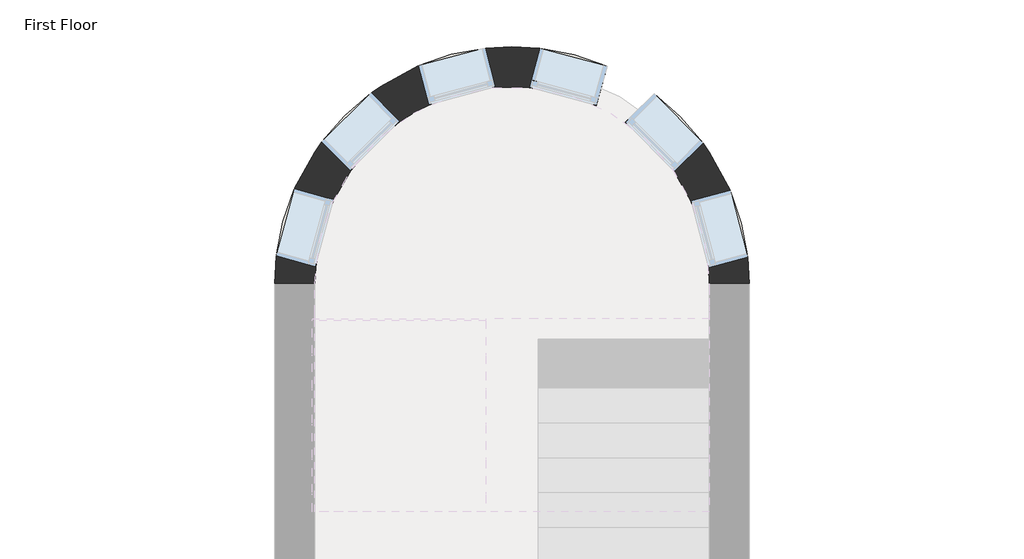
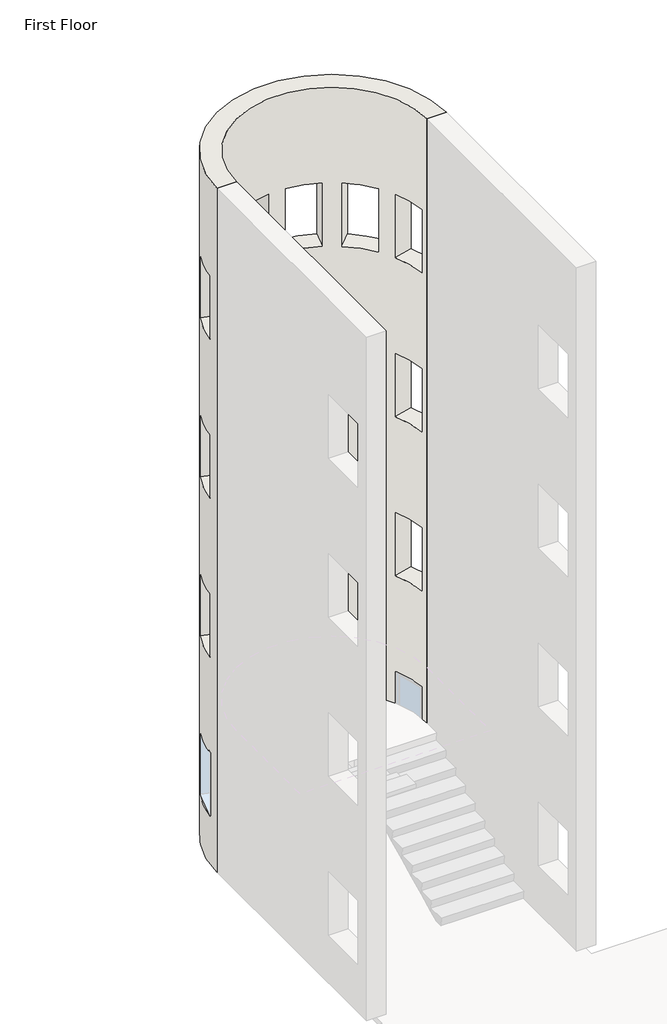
# One storey, part 2 of 3: 1 wall.
"""IFC4 building model written with IfcOpenShell, lengths in millimetres."""

from ifc_helpers import new_model, si_unit, frame, origin, place, context, project, spatial, polyline, circle_curve, element, save
from ifc_brep_helpers import plane_surface, cylinder_surface, revolved_surface, advanced_brep

model = new_model("IFC4")

# Units and contexts
model_context = context("Model", 3, world=origin())
ifc_project = project(units=[si_unit("LENGTHUNIT", "METRE", prefix="MILLI")], contexts=[model_context])

# Site, building, storey
site = spatial("IfcSite", under=ifc_project)
building = spatial("IfcBuilding", under=site)
storey = spatial("IfcBuildingStorey", under=building, Name="First Floor", Elevation=0.0)

# Wall
placement = place(None, origin())
element("IfcWall", 1, ObjectType="Exterior - Brick on Mtl. Stud", at=placement, inside=storey, context=model_context, shape_type="AdvancedBrep", body=[
    advanced_brep(
    [(-4164.4024687, 9592.7758812, 13106.4), (-8326.8274687, 9592.7758812, 13106.4), (-7974.4024687, 9592.7758812, 13106.4), (-4516.8274687, 9592.7758812, 13106.4), (-8326.8274687, 9592.7758812, 0.0), (-4164.4024687, 9592.7758812, 0.0), (-4516.8274687, 9592.7758812, 0.0), (-7974.4024687, 9592.7758812, 0.0), (-4333.3696872, 10414.2157472, 8229.6), (-4333.3696872, 10414.2157472, 7010.4), (-4177.3887825, 9824.9092757, 7010.4), (-4177.3887825, 9824.9092757, 8229.6), (-5000.2819097, 11260.2863136, 8229.6), (-5000.2819097, 11260.2863136, 7010.4), (-4570.545248, 10827.922391, 7010.4), (-4570.545248, 10827.922391, 8229.6), (-6000.8801197, 11659.5488063, 8229.6), (-6000.8801197, 11659.5488063, 7010.4), (-5412.5352924, 11499.9789965, 7010.4), (-5412.5352924, 11499.9789965, 8229.6), (-7067.0548348, 11505.0211627, 8229.6), (-7067.0548348, 11505.0211627, 7010.4), (-6477.7483633, 11661.0020674, 7010.4), (-6477.7483633, 11661.0020674, 8229.6), (-7913.1254012, 10838.1089402, 8229.6), (-7913.1254012, 10838.1089402, 7010.4), (-7480.7614786, 11267.8456019, 7010.4), (-7480.7614786, 11267.8456019, 8229.6), (-8312.3878938, 9837.5107303, 8229.6), (-8312.3878938, 9837.5107303, 7010.4), (-8152.818084, 10425.8555575, 7010.4), (-8152.818084, 10425.8555575, 8229.6), (-4333.3696872, 10414.2157472, 5181.6), (-4333.3696872, 10414.2157472, 3962.4), (-4177.3887825, 9824.9092757, 3962.4), (-4177.3887825, 9824.9092757, 5181.6), (-5000.2819097, 11260.2863136, 5181.6), (-5000.2819097, 11260.2863136, 3962.4), (-4570.545248, 10827.922391, 3962.4), (-4570.545248, 10827.922391, 5181.6), (-6000.8801197, 11659.5488063, 5181.6), (-6000.8801197, 11659.5488063, 3962.4), (-5412.5352924, 11499.9789965, 3962.4), (-5412.5352924, 11499.9789965, 5181.6), (-7067.0548348, 11505.0211627, 5181.6), (-7067.0548348, 11505.0211627, 3962.4), (-6477.7483633, 11661.0020674, 3962.4), (-6477.7483633, 11661.0020674, 5181.6), (-7913.1254012, 10838.1089402, 5181.6), (-7913.1254012, 10838.1089402, 3962.4), (-7480.7614786, 11267.8456019, 3962.4), (-7480.7614786, 11267.8456019, 5181.6), (-8312.3878938, 9837.5107303, 5181.6), (-8312.3878938, 9837.5107303, 3962.4), (-8152.818084, 10425.8555575, 3962.4), (-8152.818084, 10425.8555575, 5181.6), (-4333.3696872, 10414.2157472, 11277.6), (-4333.3696872, 10414.2157472, 10058.4), (-4177.3887825, 9824.9092757, 10058.4), (-4177.3887825, 9824.9092757, 11277.6), (-5000.2819097, 11260.2863136, 11277.6), (-5000.2819097, 11260.2863136, 10058.4), (-4570.545248, 10827.922391, 10058.4), (-4570.545248, 10827.922391, 11277.6), (-6000.8801197, 11659.5488063, 11277.6), (-6000.8801197, 11659.5488063, 10058.4), (-5412.5352924, 11499.9789965, 10058.4), (-5412.5352924, 11499.9789965, 11277.6), (-7067.0548348, 11505.0211627, 11277.6), (-7067.0548348, 11505.0211627, 10058.4), (-6477.7483633, 11661.0020674, 10058.4), (-6477.7483633, 11661.0020674, 11277.6), (-7913.1254012, 10838.1089402, 11277.6), (-7913.1254012, 10838.1089402, 10058.4), (-7480.7614786, 11267.8456019, 10058.4), (-7480.7614786, 11267.8456019, 11277.6), (-8312.3878938, 9837.5107303, 11277.6), (-8312.3878938, 9837.5107303, 10058.4), (-8152.818084, 10425.8555575, 10058.4), (-8152.818084, 10425.8555575, 11277.6), (-4333.3696872, 10414.2157472, 2133.6), (-4333.3696872, 10414.2157472, 914.4), (-4177.3887825, 9824.9092757, 914.4), (-4177.3887825, 9824.9092757, 2133.6), (-5000.2819097, 11260.2863136, 2133.6), (-5000.2819097, 11260.2863136, 914.4), (-4570.545248, 10827.922391, 914.4), (-4570.545248, 10827.922391, 2133.6), (-6000.8801197, 11659.5488063, 2133.6), (-6000.8801197, 11659.5488063, 914.4), (-5412.5352924, 11499.9789965, 914.4), (-5412.5352924, 11499.9789965, 2133.6), (-7067.0548348, 11505.0211627, 2133.6), (-7067.0548348, 11505.0211627, 914.4), (-6477.7483633, 11661.0020674, 914.4), (-6477.7483633, 11661.0020674, 2133.6), (-7913.1254012, 10838.1089402, 2133.6), (-7913.1254012, 10838.1089402, 914.4), (-7480.7614786, 11267.8456019, 914.4), (-7480.7614786, 11267.8456019, 2133.6), (-8312.3878938, 9837.5107303, 914.4), (-8152.818084, 10425.8555575, 914.4), (-8152.818084, 10425.8555575, 2133.6), (-8312.3878938, 9837.5107303, 2133.6), (-4678.5490959, 10322.8517473, 7010.4), (-4678.5490959, 10322.8517473, 8229.6), (-4522.5681912, 9733.5452757, 8229.6), (-4522.5681912, 9733.5452757, 7010.4), (-5253.5340465, 11008.5730643, 7010.4), (-5253.5340465, 11008.5730643, 8229.6), (-4823.7973847, 10576.2091417, 8229.6), (-4823.7973847, 10576.2091417, 7010.4), (-6094.346279, 11314.9326695, 7010.4), (-6094.346279, 11314.9326695, 8229.6), (-5506.0014517, 11155.3628598, 8229.6), (-5506.0014517, 11155.3628598, 7010.4), (-6975.6908348, 11159.8417541, 7010.4), (-6975.6908348, 11159.8417541, 8229.6), (-6386.3843633, 11315.8226588, 8229.6), (-6386.3843633, 11315.8226588, 7010.4), (-7661.4121519, 10584.8568034, 7010.4), (-7661.4121519, 10584.8568034, 8229.6), (-7229.0482293, 11014.5934652, 8229.6), (-7229.0482293, 11014.5934652, 7010.4), (-7967.7717571, 9744.0445709, 7010.4), (-7967.7717571, 9744.0445709, 8229.6), (-7808.2019473, 10332.3893982, 8229.6), (-7808.2019473, 10332.3893982, 7010.4), (-4678.5490959, 10322.8517473, 3962.4), (-4678.5490959, 10322.8517473, 5181.6), (-4522.5681912, 9733.5452757, 5181.6), (-4522.5681912, 9733.5452757, 3962.4), (-5253.5340465, 11008.5730643, 3962.4), (-5253.5340465, 11008.5730643, 5181.6), (-4823.7973847, 10576.2091417, 5181.6), (-4823.7973847, 10576.2091417, 3962.4), (-6094.346279, 11314.9326695, 3962.4), (-6094.346279, 11314.9326695, 5181.6), (-5506.0014517, 11155.3628598, 5181.6), (-5506.0014517, 11155.3628598, 3962.4), (-6975.6908348, 11159.8417541, 3962.4), (-6975.6908348, 11159.8417541, 5181.6), (-6386.3843633, 11315.8226588, 5181.6), (-6386.3843633, 11315.8226588, 3962.4), (-7661.4121519, 10584.8568034, 3962.4), (-7661.4121519, 10584.8568034, 5181.6), (-7229.0482293, 11014.5934652, 5181.6), (-7229.0482293, 11014.5934652, 3962.4), (-7967.7717571, 9744.0445709, 3962.4), (-7967.7717571, 9744.0445709, 5181.6), (-7808.2019473, 10332.3893982, 5181.6), (-7808.2019473, 10332.3893982, 3962.4), (-4678.5490959, 10322.8517473, 10058.4), (-4678.5490959, 10322.8517473, 11277.6), (-4522.5681912, 9733.5452757, 11277.6), (-4522.5681912, 9733.5452757, 10058.4), (-5253.5340465, 11008.5730643, 10058.4), (-5253.5340465, 11008.5730643, 11277.6), (-4823.7973847, 10576.2091417, 11277.6), (-4823.7973847, 10576.2091417, 10058.4), (-6094.346279, 11314.9326695, 10058.4), (-6094.346279, 11314.9326695, 11277.6), (-5506.0014517, 11155.3628598, 11277.6), (-5506.0014517, 11155.3628598, 10058.4), (-6975.6908348, 11159.8417541, 10058.4), (-6975.6908348, 11159.8417541, 11277.6), (-6386.3843633, 11315.8226588, 11277.6), (-6386.3843633, 11315.8226588, 10058.4), (-7661.4121519, 10584.8568034, 10058.4), (-7661.4121519, 10584.8568034, 11277.6), (-7229.0482293, 11014.5934652, 11277.6), (-7229.0482293, 11014.5934652, 10058.4), (-7967.7717571, 9744.0445709, 10058.4), (-7967.7717571, 9744.0445709, 11277.6), (-7808.2019473, 10332.3893982, 11277.6), (-7808.2019473, 10332.3893982, 10058.4), (-4678.5490959, 10322.8517473, 914.4), (-4678.5490959, 10322.8517473, 2133.6), (-4522.5681912, 9733.5452757, 2133.6), (-4522.5681912, 9733.5452757, 914.4), (-5253.5340465, 11008.5730643, 914.4), (-5253.5340465, 11008.5730643, 2133.6), (-4823.7973847, 10576.2091417, 2133.6), (-4823.7973847, 10576.2091417, 914.4), (-6094.346279, 11314.9326695, 914.4), (-6094.346279, 11314.9326695, 2133.6), (-5506.0014517, 11155.3628598, 2133.6), (-5506.0014517, 11155.3628598, 914.4), (-6975.6908348, 11159.8417541, 914.4), (-6975.6908348, 11159.8417541, 2133.6), (-6386.3843633, 11315.8226588, 2133.6), (-6386.3843633, 11315.8226588, 914.4), (-7661.4121519, 10584.8568034, 914.4), (-7661.4121519, 10584.8568034, 2133.6), (-7229.0482293, 11014.5934652, 2133.6), (-7229.0482293, 11014.5934652, 914.4), (-7808.2019473, 10332.3893982, 914.4), (-7967.7717571, 9744.0445709, 914.4), (-7967.7717571, 9744.0445709, 2133.6), (-7808.2019473, 10332.3893982, 2133.6)],
    [
        (0, 1, circle_curve(frame((-6245.6149687, 9592.7758812, 13106.4), z_axis=(0.0, 0.0, 1.0), x_axis=(1.0, 0.0, 0.0)), 2081.2125)),
        (1, 2),
        (2, 3, circle_curve(frame((-6245.6149687, 9592.7758812, 13106.4), z_axis=(0.0, 0.0, -1.0), x_axis=(1.0, 0.0, 0.0)), 1728.7875)),
        (3, 0),
        (4, 5, circle_curve(frame((-6245.6149687, 9592.7758812, 0.0), z_axis=(0.0, 0.0, -1.0), x_axis=(1.0, 0.0, 0.0)), 2081.2125)),
        (5, 6),
        (6, 7, circle_curve(frame((-6245.6149687, 9592.7758812, 0.0), z_axis=(0.0, 0.0, 1.0), x_axis=(1.0, 0.0, 0.0)), 1728.7875)),
        (7, 4),
        (0, 5),
        (4, 1),
        (8, 9),
        (9, 10, circle_curve(frame((-6245.6149687, 9592.7758812, 7010.4), z_axis=(0.0, 0.0, -1.0), x_axis=(1.0, 0.0, 0.0)), 2081.2125)),
        (10, 11),
        (11, 8, circle_curve(frame((-6245.6149687, 9592.7758812, 8229.6), z_axis=(0.0, 0.0, 1.0), x_axis=(1.0, 0.0, 0.0)), 2081.2125)),
        (12, 13),
        (13, 14, circle_curve(frame((-6245.6149687, 9592.7758812, 7010.4), z_axis=(0.0, 0.0, -1.0), x_axis=(1.0, 0.0, 0.0)), 2081.2125)),
        (14, 15),
        (15, 12, circle_curve(frame((-6245.6149687, 9592.7758812, 8229.6), z_axis=(0.0, 0.0, 1.0), x_axis=(1.0, 0.0, 0.0)), 2081.2125)),
        (16, 17),
        (17, 18, circle_curve(frame((-6245.6149687, 9592.7758812, 7010.4), z_axis=(0.0, 0.0, -1.0), x_axis=(1.0, 0.0, 0.0)), 2081.2125)),
        (18, 19),
        (19, 16, circle_curve(frame((-6245.6149687, 9592.7758812, 8229.6), z_axis=(0.0, 0.0, 1.0), x_axis=(1.0, 0.0, 0.0)), 2081.2125)),
        (20, 21),
        (21, 22, circle_curve(frame((-6245.6149687, 9592.7758812, 7010.4), z_axis=(0.0, 0.0, -1.0), x_axis=(1.0, 0.0, 0.0)), 2081.2125)),
        (22, 23),
        (23, 20, circle_curve(frame((-6245.6149687, 9592.7758812, 8229.6), z_axis=(0.0, 0.0, 1.0), x_axis=(1.0, 0.0, 0.0)), 2081.2125)),
        (24, 25),
        (25, 26, circle_curve(frame((-6245.6149687, 9592.7758812, 7010.4), z_axis=(0.0, 0.0, -1.0), x_axis=(1.0, 0.0, 0.0)), 2081.2125)),
        (26, 27),
        (27, 24, circle_curve(frame((-6245.6149687, 9592.7758812, 8229.6), z_axis=(0.0, 0.0, 1.0), x_axis=(1.0, 0.0, 0.0)), 2081.2125)),
        (28, 29),
        (29, 30, circle_curve(frame((-6245.6149687, 9592.7758812, 7010.4), z_axis=(0.0, 0.0, -1.0), x_axis=(1.0, 0.0, 0.0)), 2081.2125)),
        (30, 31),
        (31, 28, circle_curve(frame((-6245.6149687, 9592.7758812, 8229.6), z_axis=(0.0, 0.0, 1.0), x_axis=(1.0, 0.0, 0.0)), 2081.2125)),
        (32, 33),
        (33, 34, circle_curve(frame((-6245.6149687, 9592.7758812, 3962.4), z_axis=(0.0, 0.0, -1.0), x_axis=(1.0, 0.0, 0.0)), 2081.2125)),
        (34, 35),
        (35, 32, circle_curve(frame((-6245.6149687, 9592.7758812, 5181.6), z_axis=(0.0, 0.0, 1.0), x_axis=(1.0, 0.0, 0.0)), 2081.2125)),
        (36, 37),
        (37, 38, circle_curve(frame((-6245.6149687, 9592.7758812, 3962.4), z_axis=(0.0, 0.0, -1.0), x_axis=(1.0, 0.0, 0.0)), 2081.2125)),
        (38, 39),
        (39, 36, circle_curve(frame((-6245.6149687, 9592.7758812, 5181.6), z_axis=(0.0, 0.0, 1.0), x_axis=(1.0, 0.0, 0.0)), 2081.2125)),
        (40, 41),
        (41, 42, circle_curve(frame((-6245.6149687, 9592.7758812, 3962.4), z_axis=(0.0, 0.0, -1.0), x_axis=(1.0, 0.0, 0.0)), 2081.2125)),
        (42, 43),
        (43, 40, circle_curve(frame((-6245.6149687, 9592.7758812, 5181.6), z_axis=(0.0, 0.0, 1.0), x_axis=(1.0, 0.0, 0.0)), 2081.2125)),
        (44, 45),
        (45, 46, circle_curve(frame((-6245.6149687, 9592.7758812, 3962.4), z_axis=(0.0, 0.0, -1.0), x_axis=(1.0, 0.0, 0.0)), 2081.2125)),
        (46, 47),
        (47, 44, circle_curve(frame((-6245.6149687, 9592.7758812, 5181.6), z_axis=(0.0, 0.0, 1.0), x_axis=(1.0, 0.0, 0.0)), 2081.2125)),
        (48, 49),
        (49, 50, circle_curve(frame((-6245.6149687, 9592.7758812, 3962.4), z_axis=(0.0, 0.0, -1.0), x_axis=(1.0, 0.0, 0.0)), 2081.2125)),
        (50, 51),
        (51, 48, circle_curve(frame((-6245.6149687, 9592.7758812, 5181.6), z_axis=(0.0, 0.0, 1.0), x_axis=(1.0, 0.0, 0.0)), 2081.2125)),
        (52, 53),
        (53, 54, circle_curve(frame((-6245.6149687, 9592.7758812, 3962.4), z_axis=(0.0, 0.0, -1.0), x_axis=(1.0, 0.0, 0.0)), 2081.2125)),
        (54, 55),
        (55, 52, circle_curve(frame((-6245.6149687, 9592.7758812, 5181.6), z_axis=(0.0, 0.0, 1.0), x_axis=(1.0, 0.0, 0.0)), 2081.2125)),
        (56, 57),
        (57, 58, circle_curve(frame((-6245.6149687, 9592.7758812, 10058.4), z_axis=(0.0, 0.0, -1.0), x_axis=(1.0, 0.0, 0.0)), 2081.2125)),
        (58, 59),
        (59, 56, circle_curve(frame((-6245.6149687, 9592.7758812, 11277.6), z_axis=(0.0, 0.0, 1.0), x_axis=(1.0, 0.0, 0.0)), 2081.2125)),
        (60, 61),
        (61, 62, circle_curve(frame((-6245.6149687, 9592.7758812, 10058.4), z_axis=(0.0, 0.0, -1.0), x_axis=(1.0, 0.0, 0.0)), 2081.2125)),
        (62, 63),
        (63, 60, circle_curve(frame((-6245.6149687, 9592.7758812, 11277.6), z_axis=(0.0, 0.0, 1.0), x_axis=(1.0, 0.0, 0.0)), 2081.2125)),
        (64, 65),
        (65, 66, circle_curve(frame((-6245.6149687, 9592.7758812, 10058.4), z_axis=(0.0, 0.0, -1.0), x_axis=(1.0, 0.0, 0.0)), 2081.2125)),
        (66, 67),
        (67, 64, circle_curve(frame((-6245.6149687, 9592.7758812, 11277.6), z_axis=(0.0, 0.0, 1.0), x_axis=(1.0, 0.0, 0.0)), 2081.2125)),
        (68, 69),
        (69, 70, circle_curve(frame((-6245.6149687, 9592.7758812, 10058.4), z_axis=(0.0, 0.0, -1.0), x_axis=(1.0, 0.0, 0.0)), 2081.2125)),
        (70, 71),
        (71, 68, circle_curve(frame((-6245.6149687, 9592.7758812, 11277.6), z_axis=(0.0, 0.0, 1.0), x_axis=(1.0, 0.0, 0.0)), 2081.2125)),
        (72, 73),
        (73, 74, circle_curve(frame((-6245.6149687, 9592.7758812, 10058.4), z_axis=(0.0, 0.0, -1.0), x_axis=(1.0, 0.0, 0.0)), 2081.2125)),
        (74, 75),
        (75, 72, circle_curve(frame((-6245.6149687, 9592.7758812, 11277.6), z_axis=(0.0, 0.0, 1.0), x_axis=(1.0, 0.0, 0.0)), 2081.2125)),
        (76, 77),
        (77, 78, circle_curve(frame((-6245.6149687, 9592.7758812, 10058.4), z_axis=(0.0, 0.0, -1.0), x_axis=(1.0, 0.0, 0.0)), 2081.2125)),
        (78, 79),
        (79, 76, circle_curve(frame((-6245.6149687, 9592.7758812, 11277.6), z_axis=(0.0, 0.0, 1.0), x_axis=(1.0, 0.0, 0.0)), 2081.2125)),
        (80, 81),
        (81, 82, circle_curve(frame((-6245.6149687, 9592.7758812, 914.4), z_axis=(0.0, 0.0, -1.0), x_axis=(1.0, 0.0, 0.0)), 2081.2125)),
        (82, 83),
        (83, 80, circle_curve(frame((-6245.6149687, 9592.7758812, 2133.6), z_axis=(0.0, 0.0, 1.0), x_axis=(1.0, 0.0, 0.0)), 2081.2125)),
        (84, 85),
        (85, 86, circle_curve(frame((-6245.6149687, 9592.7758812, 914.4), z_axis=(0.0, 0.0, -1.0), x_axis=(1.0, 0.0, 0.0)), 2081.2125)),
        (86, 87),
        (87, 84, circle_curve(frame((-6245.6149687, 9592.7758812, 2133.6), z_axis=(0.0, 0.0, 1.0), x_axis=(1.0, 0.0, 0.0)), 2081.2125)),
        (88, 89),
        (89, 90, circle_curve(frame((-6245.6149687, 9592.7758812, 914.4), z_axis=(0.0, 0.0, -1.0), x_axis=(1.0, 0.0, 0.0)), 2081.2125)),
        (90, 91),
        (91, 88, circle_curve(frame((-6245.6149687, 9592.7758812, 2133.6), z_axis=(0.0, 0.0, 1.0), x_axis=(1.0, 0.0, 0.0)), 2081.2125)),
        (92, 93),
        (93, 94, circle_curve(frame((-6245.6149687, 9592.7758812, 914.4), z_axis=(0.0, 0.0, -1.0), x_axis=(1.0, 0.0, 0.0)), 2081.2125)),
        (94, 95),
        (95, 92, circle_curve(frame((-6245.6149687, 9592.7758812, 2133.6), z_axis=(0.0, 0.0, 1.0), x_axis=(1.0, 0.0, 0.0)), 2081.2125)),
        (96, 97),
        (97, 98, circle_curve(frame((-6245.6149687, 9592.7758812, 914.4), z_axis=(0.0, 0.0, -1.0), x_axis=(1.0, 0.0, 0.0)), 2081.2125)),
        (98, 99),
        (99, 96, circle_curve(frame((-6245.6149687, 9592.7758812, 2133.6), z_axis=(0.0, 0.0, 1.0), x_axis=(1.0, 0.0, 0.0)), 2081.2125)),
        (100, 101, circle_curve(frame((-6245.6149687, 9592.7758812, 914.4), z_axis=(0.0, 0.0, -1.0), x_axis=(1.0, 0.0, 0.0)), 2081.2125)),
        (101, 102),
        (102, 103, circle_curve(frame((-6245.6149687, 9592.7758812, 2133.6), z_axis=(0.0, 0.0, 1.0), x_axis=(1.0, 0.0, 0.0)), 2081.2125)),
        (103, 100),
        (7, 2),
        (6, 3),
        (104, 105),
        (105, 106, circle_curve(frame((-6245.6149687, 9592.7758812, 8229.6), z_axis=(0.0, 0.0, -1.0), x_axis=(1.0, 0.0, 0.0)), 1728.7875)),
        (106, 107),
        (107, 104, circle_curve(frame((-6245.6149687, 9592.7758812, 7010.4), z_axis=(0.0, 0.0, 1.0), x_axis=(1.0, 0.0, 0.0)), 1728.7875)),
        (108, 109),
        (109, 110, circle_curve(frame((-6245.6149687, 9592.7758812, 8229.6), z_axis=(0.0, 0.0, -1.0), x_axis=(1.0, 0.0, 0.0)), 1728.7875)),
        (110, 111),
        (111, 108, circle_curve(frame((-6245.6149687, 9592.7758812, 7010.4), z_axis=(0.0, 0.0, 1.0), x_axis=(1.0, 0.0, 0.0)), 1728.7875)),
        (112, 113),
        (113, 114, circle_curve(frame((-6245.6149687, 9592.7758812, 8229.6), z_axis=(0.0, 0.0, -1.0), x_axis=(1.0, 0.0, 0.0)), 1728.7875)),
        (114, 115),
        (115, 112, circle_curve(frame((-6245.6149687, 9592.7758812, 7010.4), z_axis=(0.0, 0.0, 1.0), x_axis=(1.0, 0.0, 0.0)), 1728.7875)),
        (116, 117),
        (117, 118, circle_curve(frame((-6245.6149687, 9592.7758812, 8229.6), z_axis=(0.0, 0.0, -1.0), x_axis=(1.0, 0.0, 0.0)), 1728.7875)),
        (118, 119),
        (119, 116, circle_curve(frame((-6245.6149687, 9592.7758812, 7010.4), z_axis=(0.0, 0.0, 1.0), x_axis=(1.0, 0.0, 0.0)), 1728.7875)),
        (120, 121),
        (121, 122, circle_curve(frame((-6245.6149687, 9592.7758812, 8229.6), z_axis=(0.0, 0.0, -1.0), x_axis=(1.0, 0.0, 0.0)), 1728.7875)),
        (122, 123),
        (123, 120, circle_curve(frame((-6245.6149687, 9592.7758812, 7010.4), z_axis=(0.0, 0.0, 1.0), x_axis=(1.0, 0.0, 0.0)), 1728.7875)),
        (124, 125),
        (125, 126, circle_curve(frame((-6245.6149687, 9592.7758812, 8229.6), z_axis=(0.0, 0.0, -1.0), x_axis=(1.0, 0.0, 0.0)), 1728.7875)),
        (126, 127),
        (127, 124, circle_curve(frame((-6245.6149687, 9592.7758812, 7010.4), z_axis=(0.0, 0.0, 1.0), x_axis=(1.0, 0.0, 0.0)), 1728.7875)),
        (128, 129),
        (129, 130, circle_curve(frame((-6245.6149687, 9592.7758812, 5181.6), z_axis=(0.0, 0.0, -1.0), x_axis=(1.0, 0.0, 0.0)), 1728.7875)),
        (130, 131),
        (131, 128, circle_curve(frame((-6245.6149687, 9592.7758812, 3962.4), z_axis=(0.0, 0.0, 1.0), x_axis=(1.0, 0.0, 0.0)), 1728.7875)),
        (132, 133),
        (133, 134, circle_curve(frame((-6245.6149687, 9592.7758812, 5181.6), z_axis=(0.0, 0.0, -1.0), x_axis=(1.0, 0.0, 0.0)), 1728.7875)),
        (134, 135),
        (135, 132, circle_curve(frame((-6245.6149687, 9592.7758812, 3962.4), z_axis=(0.0, 0.0, 1.0), x_axis=(1.0, 0.0, 0.0)), 1728.7875)),
        (136, 137),
        (137, 138, circle_curve(frame((-6245.6149687, 9592.7758812, 5181.6), z_axis=(0.0, 0.0, -1.0), x_axis=(1.0, 0.0, 0.0)), 1728.7875)),
        (138, 139),
        (139, 136, circle_curve(frame((-6245.6149687, 9592.7758812, 3962.4), z_axis=(0.0, 0.0, 1.0), x_axis=(1.0, 0.0, 0.0)), 1728.7875)),
        (140, 141),
        (141, 142, circle_curve(frame((-6245.6149687, 9592.7758812, 5181.6), z_axis=(0.0, 0.0, -1.0), x_axis=(1.0, 0.0, 0.0)), 1728.7875)),
        (142, 143),
        (143, 140, circle_curve(frame((-6245.6149687, 9592.7758812, 3962.4), z_axis=(0.0, 0.0, 1.0), x_axis=(1.0, 0.0, 0.0)), 1728.7875)),
        (144, 145),
        (145, 146, circle_curve(frame((-6245.6149687, 9592.7758812, 5181.6), z_axis=(0.0, 0.0, -1.0), x_axis=(1.0, 0.0, 0.0)), 1728.7875)),
        (146, 147),
        (147, 144, circle_curve(frame((-6245.6149687, 9592.7758812, 3962.4), z_axis=(0.0, 0.0, 1.0), x_axis=(1.0, 0.0, 0.0)), 1728.7875)),
        (148, 149),
        (149, 150, circle_curve(frame((-6245.6149687, 9592.7758812, 5181.6), z_axis=(0.0, 0.0, -1.0), x_axis=(1.0, 0.0, 0.0)), 1728.7875)),
        (150, 151),
        (151, 148, circle_curve(frame((-6245.6149687, 9592.7758812, 3962.4), z_axis=(0.0, 0.0, 1.0), x_axis=(1.0, 0.0, 0.0)), 1728.7875)),
        (152, 153),
        (153, 154, circle_curve(frame((-6245.6149687, 9592.7758812, 11277.6), z_axis=(0.0, 0.0, -1.0), x_axis=(1.0, 0.0, 0.0)), 1728.7875)),
        (154, 155),
        (155, 152, circle_curve(frame((-6245.6149687, 9592.7758812, 10058.4), z_axis=(0.0, 0.0, 1.0), x_axis=(1.0, 0.0, 0.0)), 1728.7875)),
        (156, 157),
        (157, 158, circle_curve(frame((-6245.6149687, 9592.7758812, 11277.6), z_axis=(0.0, 0.0, -1.0), x_axis=(1.0, 0.0, 0.0)), 1728.7875)),
        (158, 159),
        (159, 156, circle_curve(frame((-6245.6149687, 9592.7758812, 10058.4), z_axis=(0.0, 0.0, 1.0), x_axis=(1.0, 0.0, 0.0)), 1728.7875)),
        (160, 161),
        (161, 162, circle_curve(frame((-6245.6149687, 9592.7758812, 11277.6), z_axis=(0.0, 0.0, -1.0), x_axis=(1.0, 0.0, 0.0)), 1728.7875)),
        (162, 163),
        (163, 160, circle_curve(frame((-6245.6149687, 9592.7758812, 10058.4), z_axis=(0.0, 0.0, 1.0), x_axis=(1.0, 0.0, 0.0)), 1728.7875)),
        (164, 165),
        (165, 166, circle_curve(frame((-6245.6149687, 9592.7758812, 11277.6), z_axis=(0.0, 0.0, -1.0), x_axis=(1.0, 0.0, 0.0)), 1728.7875)),
        (166, 167),
        (167, 164, circle_curve(frame((-6245.6149687, 9592.7758812, 10058.4), z_axis=(0.0, 0.0, 1.0), x_axis=(1.0, 0.0, 0.0)), 1728.7875)),
        (168, 169),
        (169, 170, circle_curve(frame((-6245.6149687, 9592.7758812, 11277.6), z_axis=(0.0, 0.0, -1.0), x_axis=(1.0, 0.0, 0.0)), 1728.7875)),
        (170, 171),
        (171, 168, circle_curve(frame((-6245.6149687, 9592.7758812, 10058.4), z_axis=(0.0, 0.0, 1.0), x_axis=(1.0, 0.0, 0.0)), 1728.7875)),
        (172, 173),
        (173, 174, circle_curve(frame((-6245.6149687, 9592.7758812, 11277.6), z_axis=(0.0, 0.0, -1.0), x_axis=(1.0, 0.0, 0.0)), 1728.7875)),
        (174, 175),
        (175, 172, circle_curve(frame((-6245.6149687, 9592.7758812, 10058.4), z_axis=(0.0, 0.0, 1.0), x_axis=(1.0, 0.0, 0.0)), 1728.7875)),
        (176, 177),
        (177, 178, circle_curve(frame((-6245.6149687, 9592.7758812, 2133.6), z_axis=(0.0, 0.0, -1.0), x_axis=(1.0, 0.0, 0.0)), 1728.7875)),
        (178, 179),
        (179, 176, circle_curve(frame((-6245.6149687, 9592.7758812, 914.4), z_axis=(0.0, 0.0, 1.0), x_axis=(1.0, 0.0, 0.0)), 1728.7875)),
        (180, 181),
        (181, 182, circle_curve(frame((-6245.6149687, 9592.7758812, 2133.6), z_axis=(0.0, 0.0, -1.0), x_axis=(1.0, 0.0, 0.0)), 1728.7875)),
        (182, 183),
        (183, 180, circle_curve(frame((-6245.6149687, 9592.7758812, 914.4), z_axis=(0.0, 0.0, 1.0), x_axis=(1.0, 0.0, 0.0)), 1728.7875)),
        (184, 185),
        (185, 186, circle_curve(frame((-6245.6149687, 9592.7758812, 2133.6), z_axis=(0.0, 0.0, -1.0), x_axis=(1.0, 0.0, 0.0)), 1728.7875)),
        (186, 187),
        (187, 184, circle_curve(frame((-6245.6149687, 9592.7758812, 914.4), z_axis=(0.0, 0.0, 1.0), x_axis=(1.0, 0.0, 0.0)), 1728.7875)),
        (188, 189),
        (189, 190, circle_curve(frame((-6245.6149687, 9592.7758812, 2133.6), z_axis=(0.0, 0.0, -1.0), x_axis=(1.0, 0.0, 0.0)), 1728.7875)),
        (190, 191),
        (191, 188, circle_curve(frame((-6245.6149687, 9592.7758812, 914.4), z_axis=(0.0, 0.0, 1.0), x_axis=(1.0, 0.0, 0.0)), 1728.7875)),
        (192, 193),
        (193, 194, circle_curve(frame((-6245.6149687, 9592.7758812, 2133.6), z_axis=(0.0, 0.0, -1.0), x_axis=(1.0, 0.0, 0.0)), 1728.7875)),
        (194, 195),
        (195, 192, circle_curve(frame((-6245.6149687, 9592.7758812, 914.4), z_axis=(0.0, 0.0, 1.0), x_axis=(1.0, 0.0, 0.0)), 1728.7875)),
        (196, 197, circle_curve(frame((-6245.6149687, 9592.7758812, 914.4), z_axis=(0.0, 0.0, 1.0), x_axis=(1.0, 0.0, 0.0)), 1728.7875)),
        (197, 198),
        (198, 199, circle_curve(frame((-6245.6149687, 9592.7758812, 2133.6), z_axis=(0.0, 0.0, -1.0), x_axis=(1.0, 0.0, 0.0)), 1728.7875)),
        (199, 196),
        (8, 105),
        (104, 9),
        (107, 10),
        (106, 11),
        (12, 109),
        (108, 13),
        (111, 14),
        (110, 15),
        (16, 113),
        (112, 17),
        (115, 18),
        (114, 19),
        (20, 117),
        (116, 21),
        (119, 22),
        (118, 23),
        (24, 121),
        (120, 25),
        (123, 26),
        (122, 27),
        (28, 125),
        (124, 29),
        (127, 30),
        (126, 31),
        (32, 129),
        (128, 33),
        (131, 34),
        (130, 35),
        (36, 133),
        (132, 37),
        (135, 38),
        (134, 39),
        (40, 137),
        (136, 41),
        (139, 42),
        (138, 43),
        (44, 141),
        (140, 45),
        (143, 46),
        (142, 47),
        (48, 145),
        (144, 49),
        (147, 50),
        (146, 51),
        (52, 149),
        (148, 53),
        (151, 54),
        (150, 55),
        (56, 153),
        (152, 57),
        (155, 58),
        (154, 59),
        (60, 157),
        (156, 61),
        (159, 62),
        (158, 63),
        (64, 161),
        (160, 65),
        (163, 66),
        (162, 67),
        (68, 165),
        (164, 69),
        (167, 70),
        (166, 71),
        (72, 169),
        (168, 73),
        (171, 74),
        (170, 75),
        (76, 173),
        (172, 77),
        (175, 78),
        (174, 79),
        (80, 177),
        (176, 81),
        (179, 82),
        (178, 83),
        (84, 181),
        (180, 85),
        (183, 86),
        (182, 87),
        (88, 185),
        (184, 89),
        (187, 90),
        (186, 91),
        (92, 189),
        (188, 93),
        (191, 94),
        (190, 95),
        (96, 193),
        (192, 97),
        (195, 98),
        (194, 99),
        (197, 100),
        (103, 198),
        (196, 101),
        (199, 102),
    ],
    [
        plane_surface(frame((-4164.4024687, 9592.7758812, 13106.4), z_axis=(0.0, 0.0, 1.0), x_axis=(0.0, 1.0, 0.0))),
        plane_surface(frame((-4164.4024687, 9592.7758812, 0.0), z_axis=(0.0, 0.0, -1.0), x_axis=(0.0, -1.0, 0.0))),
        cylinder_surface(frame((-6245.6149687, 9592.7758812, 0.0), z_axis=(0.0, 0.0, 1.0), x_axis=(1.0, 0.0, 0.0)), 2081.2125),
        plane_surface(frame((-8326.8274687, 9592.7758812, 13106.4), z_axis=(0.0, -1.0, 0.0), x_axis=(0.0, 0.0, -1.0))),
        revolved_surface(polyline([(-4516.827468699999, 9592.7758812, 0.0), (-4516.827468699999, 9592.7758812, 13106.4)]), (-6245.6149687, 9592.7758812, 0.0), (0.0, 0.0, -1.0)),
        plane_surface(frame((-4516.8274687, 9592.7758812, 13106.4), z_axis=(0.0, -1.0, 0.0), x_axis=(0.0, 0.0, -1.0))),
        plane_surface(frame((-4333.3696872, 10414.2157472, 8229.6), z_axis=(0.25587418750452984, -0.9667100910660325, 0.0), x_axis=(-0.9667100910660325, -0.25587418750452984, 0.0))),
        plane_surface(frame((-4333.3696872, 10414.2157472, 7010.4), z_axis=(0.0, 0.0, 1.0), x_axis=(-0.9667100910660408, -0.2558741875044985, 0.0))),
        plane_surface(frame((-4177.3887825, 9824.9092757, 7010.4), z_axis=(-0.2558741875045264, 0.9667100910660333, 0.0), x_axis=(-0.9667100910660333, -0.2558741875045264, 0.0))),
        plane_surface(frame((-4177.3887825, 9824.9092757, 8229.6), z_axis=(0.0, 0.0, -1.0), x_axis=(-0.966710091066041, -0.2558741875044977, 0.0))),
        plane_surface(frame((-5000.2819097, 11260.2863136, 8229.6), z_axis=(0.7049485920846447, -0.7092584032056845, 0.0), x_axis=(-0.7092584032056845, -0.7049485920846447, 0.0))),
        plane_surface(frame((-5000.2819097, 11260.2863136, 7010.4), z_axis=(0.0, 0.0, 1.0000000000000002), x_axis=(-0.7092584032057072, -0.7049485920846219, 0.0))),
        plane_surface(frame((-4570.545248, 10827.922391, 7010.4), z_axis=(-0.7049485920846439, 0.7092584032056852, 0.0), x_axis=(-0.7092584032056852, -0.7049485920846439, 0.0))),
        plane_surface(frame((-4570.545248, 10827.922391, 8229.6), z_axis=(0.0, 0.0, -1.0), x_axis=(-0.7092584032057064, -0.7049485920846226, 0.0))),
        plane_surface(frame((-6000.8801197, 11659.5488063, 8229.6), z_axis=(0.9651325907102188, -0.2617614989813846, 0.0), x_axis=(-0.2617614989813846, -0.9651325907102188, 0.0))),
        plane_surface(frame((-6000.8801197, 11659.5488063, 7010.4), z_axis=(0.0, 0.0, 1.0000000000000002), x_axis=(-0.26176149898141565, -0.9651325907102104, 0.0))),
        plane_surface(frame((-5412.5352924, 11499.9789965, 7010.4), z_axis=(-0.9651325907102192, 0.2617614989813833, 0.0), x_axis=(-0.2617614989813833, -0.9651325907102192, 0.0))),
        plane_surface(frame((-5412.5352924, 11499.9789965, 8229.6), z_axis=(0.0, 0.0, -1.0), x_axis=(-0.26176149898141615, -0.9651325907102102, 0.0))),
        plane_surface(frame((-7067.0548348, 11505.0211627, 8229.6), z_axis=(0.9667100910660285, 0.2558741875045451, 0.0), x_axis=(0.2558741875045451, -0.9667100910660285, 0.0))),
        plane_surface(frame((-7067.0548348, 11505.0211627, 7010.4), z_axis=(0.0, 0.0, 1.0000000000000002), x_axis=(0.2558741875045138, -0.9667100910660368, 0.0))),
        plane_surface(frame((-6477.7483633, 11661.0020674, 7010.4), z_axis=(-0.966710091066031, -0.2558741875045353, 0.0), x_axis=(0.2558741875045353, -0.966710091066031, 0.0))),
        plane_surface(frame((-6477.7483633, 11661.0020674, 8229.6), z_axis=(0.0, 0.0, -1.0000000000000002), x_axis=(0.2558741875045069, -0.9667100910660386, 0.0))),
        plane_surface(frame((-7913.1254012, 10838.1089402, 8229.6), z_axis=(0.7092584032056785, 0.7049485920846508, 0.0), x_axis=(0.7049485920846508, -0.7092584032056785, 0.0))),
        plane_surface(frame((-7913.1254012, 10838.1089402, 7010.4), z_axis=(0.0, 0.0, 1.0000000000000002), x_axis=(0.704948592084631, -0.7092584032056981, 0.0))),
        plane_surface(frame((-7480.7614786, 11267.8456019, 7010.4), z_axis=(-0.7092584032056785, -0.7049485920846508, 0.0), x_axis=(0.7049485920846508, -0.7092584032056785, 0.0))),
        plane_surface(frame((-7480.7614786, 11267.8456019, 8229.6), z_axis=(0.0, 0.0, -1.0), x_axis=(0.7049485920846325, -0.7092584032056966, 0.0))),
        plane_surface(frame((-8312.3878938, 9837.5107303, 8229.6), z_axis=(0.2617614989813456, 0.9651325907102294, 0.0), x_axis=(0.9651325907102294, -0.2617614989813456, 0.0))),
        plane_surface(frame((-8312.3878938, 9837.5107303, 7010.4), z_axis=(0.0, 0.0, 1.0), x_axis=(0.9651325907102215, -0.26176149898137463, 0.0))),
        plane_surface(frame((-8152.818084, 10425.8555575, 7010.4), z_axis=(-0.2617614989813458, -0.9651325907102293, 0.0), x_axis=(0.9651325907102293, -0.2617614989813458, 0.0))),
        plane_surface(frame((-8152.818084, 10425.8555575, 8229.6), z_axis=(0.0, 0.0, -1.0), x_axis=(0.9651325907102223, -0.26176149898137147, 0.0))),
        plane_surface(frame((-4333.3696872, 10414.2157472, 5181.6), z_axis=(0.25587418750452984, -0.9667100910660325, 0.0), x_axis=(-0.9667100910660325, -0.25587418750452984, 0.0))),
        plane_surface(frame((-4333.3696872, 10414.2157472, 3962.4), z_axis=(0.0, 0.0, 1.0), x_axis=(-0.9667100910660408, -0.2558741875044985, 0.0))),
        plane_surface(frame((-4177.3887825, 9824.9092757, 3962.4), z_axis=(-0.2558741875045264, 0.9667100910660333, 0.0), x_axis=(-0.9667100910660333, -0.2558741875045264, 0.0))),
        plane_surface(frame((-4177.3887825, 9824.9092757, 5181.6), z_axis=(0.0, 0.0, -1.0), x_axis=(-0.966710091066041, -0.2558741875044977, 0.0))),
        plane_surface(frame((-5000.2819097, 11260.2863136, 5181.6), z_axis=(0.7049485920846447, -0.7092584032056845, 0.0), x_axis=(-0.7092584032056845, -0.7049485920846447, 0.0))),
        plane_surface(frame((-5000.2819097, 11260.2863136, 3962.4), z_axis=(0.0, 0.0, 1.0000000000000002), x_axis=(-0.7092584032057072, -0.7049485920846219, 0.0))),
        plane_surface(frame((-4570.545248, 10827.922391, 3962.4), z_axis=(-0.7049485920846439, 0.7092584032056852, 0.0), x_axis=(-0.7092584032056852, -0.7049485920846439, 0.0))),
        plane_surface(frame((-4570.545248, 10827.922391, 5181.6), z_axis=(0.0, 0.0, -1.0), x_axis=(-0.7092584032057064, -0.7049485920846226, 0.0))),
        plane_surface(frame((-6000.8801197, 11659.5488063, 5181.6), z_axis=(0.9651325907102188, -0.2617614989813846, 0.0), x_axis=(-0.2617614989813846, -0.9651325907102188, 0.0))),
        plane_surface(frame((-6000.8801197, 11659.5488063, 3962.4), z_axis=(0.0, 0.0, 1.0000000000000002), x_axis=(-0.26176149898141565, -0.9651325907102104, 0.0))),
        plane_surface(frame((-5412.5352924, 11499.9789965, 3962.4), z_axis=(-0.9651325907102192, 0.2617614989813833, 0.0), x_axis=(-0.2617614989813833, -0.9651325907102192, 0.0))),
        plane_surface(frame((-5412.5352924, 11499.9789965, 5181.6), z_axis=(0.0, 0.0, -1.0), x_axis=(-0.26176149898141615, -0.9651325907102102, 0.0))),
        plane_surface(frame((-7067.0548348, 11505.0211627, 5181.6), z_axis=(0.9667100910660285, 0.2558741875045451, 0.0), x_axis=(0.2558741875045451, -0.9667100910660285, 0.0))),
        plane_surface(frame((-7067.0548348, 11505.0211627, 3962.4), z_axis=(0.0, 0.0, 1.0000000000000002), x_axis=(0.2558741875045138, -0.9667100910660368, 0.0))),
        plane_surface(frame((-6477.7483633, 11661.0020674, 3962.4), z_axis=(-0.966710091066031, -0.2558741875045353, 0.0), x_axis=(0.2558741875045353, -0.966710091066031, 0.0))),
        plane_surface(frame((-6477.7483633, 11661.0020674, 5181.6), z_axis=(0.0, 0.0, -1.0000000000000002), x_axis=(0.2558741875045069, -0.9667100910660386, 0.0))),
        plane_surface(frame((-7913.1254012, 10838.1089402, 5181.6), z_axis=(0.7092584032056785, 0.7049485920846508, 0.0), x_axis=(0.7049485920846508, -0.7092584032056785, 0.0))),
        plane_surface(frame((-7913.1254012, 10838.1089402, 3962.4), z_axis=(0.0, 0.0, 1.0000000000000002), x_axis=(0.704948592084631, -0.7092584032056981, 0.0))),
        plane_surface(frame((-7480.7614786, 11267.8456019, 3962.4), z_axis=(-0.7092584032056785, -0.7049485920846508, 0.0), x_axis=(0.7049485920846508, -0.7092584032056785, 0.0))),
        plane_surface(frame((-7480.7614786, 11267.8456019, 5181.6), z_axis=(0.0, 0.0, -1.0), x_axis=(0.7049485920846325, -0.7092584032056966, 0.0))),
        plane_surface(frame((-8312.3878938, 9837.5107303, 5181.6), z_axis=(0.2617614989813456, 0.9651325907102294, 0.0), x_axis=(0.9651325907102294, -0.2617614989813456, 0.0))),
        plane_surface(frame((-8312.3878938, 9837.5107303, 3962.4), z_axis=(0.0, 0.0, 1.0), x_axis=(0.9651325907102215, -0.26176149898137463, 0.0))),
        plane_surface(frame((-8152.818084, 10425.8555575, 3962.4), z_axis=(-0.2617614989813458, -0.9651325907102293, 0.0), x_axis=(0.9651325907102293, -0.2617614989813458, 0.0))),
        plane_surface(frame((-8152.818084, 10425.8555575, 5181.6), z_axis=(0.0, 0.0, -1.0), x_axis=(0.9651325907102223, -0.26176149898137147, 0.0))),
        plane_surface(frame((-4333.3696872, 10414.2157472, 11277.6), z_axis=(0.25587418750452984, -0.9667100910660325, 0.0), x_axis=(-0.9667100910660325, -0.25587418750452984, 0.0))),
        plane_surface(frame((-4333.3696872, 10414.2157472, 10058.4), z_axis=(0.0, 0.0, 1.0), x_axis=(-0.9667100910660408, -0.2558741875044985, 0.0))),
        plane_surface(frame((-4177.3887825, 9824.9092757, 10058.4), z_axis=(-0.2558741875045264, 0.9667100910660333, 0.0), x_axis=(-0.9667100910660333, -0.2558741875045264, 0.0))),
        plane_surface(frame((-4177.3887825, 9824.9092757, 11277.6), z_axis=(0.0, 0.0, -1.0), x_axis=(-0.966710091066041, -0.2558741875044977, 0.0))),
        plane_surface(frame((-5000.2819097, 11260.2863136, 11277.6), z_axis=(0.7049485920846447, -0.7092584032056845, 0.0), x_axis=(-0.7092584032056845, -0.7049485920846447, 0.0))),
        plane_surface(frame((-5000.2819097, 11260.2863136, 10058.4), z_axis=(0.0, 0.0, 1.0000000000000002), x_axis=(-0.7092584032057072, -0.7049485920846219, 0.0))),
        plane_surface(frame((-4570.545248, 10827.922391, 10058.4), z_axis=(-0.7049485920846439, 0.7092584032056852, 0.0), x_axis=(-0.7092584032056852, -0.7049485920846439, 0.0))),
        plane_surface(frame((-4570.545248, 10827.922391, 11277.6), z_axis=(0.0, 0.0, -1.0), x_axis=(-0.7092584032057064, -0.7049485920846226, 0.0))),
        plane_surface(frame((-6000.8801197, 11659.5488063, 11277.6), z_axis=(0.9651325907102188, -0.2617614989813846, 0.0), x_axis=(-0.2617614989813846, -0.9651325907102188, 0.0))),
        plane_surface(frame((-6000.8801197, 11659.5488063, 10058.4), z_axis=(0.0, 0.0, 1.0000000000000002), x_axis=(-0.26176149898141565, -0.9651325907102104, 0.0))),
        plane_surface(frame((-5412.5352924, 11499.9789965, 10058.4), z_axis=(-0.9651325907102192, 0.2617614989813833, 0.0), x_axis=(-0.2617614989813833, -0.9651325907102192, 0.0))),
        plane_surface(frame((-5412.5352924, 11499.9789965, 11277.6), z_axis=(0.0, 0.0, -1.0), x_axis=(-0.26176149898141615, -0.9651325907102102, 0.0))),
        plane_surface(frame((-7067.0548348, 11505.0211627, 11277.6), z_axis=(0.9667100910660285, 0.2558741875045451, 0.0), x_axis=(0.2558741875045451, -0.9667100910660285, 0.0))),
        plane_surface(frame((-7067.0548348, 11505.0211627, 10058.4), z_axis=(0.0, 0.0, 1.0000000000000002), x_axis=(0.2558741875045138, -0.9667100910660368, 0.0))),
        plane_surface(frame((-6477.7483633, 11661.0020674, 10058.4), z_axis=(-0.966710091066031, -0.2558741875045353, 0.0), x_axis=(0.2558741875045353, -0.966710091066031, 0.0))),
        plane_surface(frame((-6477.7483633, 11661.0020674, 11277.6), z_axis=(0.0, 0.0, -1.0000000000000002), x_axis=(0.2558741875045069, -0.9667100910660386, 0.0))),
        plane_surface(frame((-7913.1254012, 10838.1089402, 11277.6), z_axis=(0.7092584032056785, 0.7049485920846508, 0.0), x_axis=(0.7049485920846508, -0.7092584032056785, 0.0))),
        plane_surface(frame((-7913.1254012, 10838.1089402, 10058.4), z_axis=(0.0, 0.0, 1.0000000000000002), x_axis=(0.704948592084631, -0.7092584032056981, 0.0))),
        plane_surface(frame((-7480.7614786, 11267.8456019, 10058.4), z_axis=(-0.7092584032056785, -0.7049485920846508, 0.0), x_axis=(0.7049485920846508, -0.7092584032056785, 0.0))),
        plane_surface(frame((-7480.7614786, 11267.8456019, 11277.6), z_axis=(0.0, 0.0, -1.0), x_axis=(0.7049485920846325, -0.7092584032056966, 0.0))),
        plane_surface(frame((-8312.3878938, 9837.5107303, 11277.6), z_axis=(0.2617614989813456, 0.9651325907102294, 0.0), x_axis=(0.9651325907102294, -0.2617614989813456, 0.0))),
        plane_surface(frame((-8312.3878938, 9837.5107303, 10058.4), z_axis=(0.0, 0.0, 1.0), x_axis=(0.9651325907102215, -0.26176149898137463, 0.0))),
        plane_surface(frame((-8152.818084, 10425.8555575, 10058.4), z_axis=(-0.2617614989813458, -0.9651325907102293, 0.0), x_axis=(0.9651325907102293, -0.2617614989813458, 0.0))),
        plane_surface(frame((-8152.818084, 10425.8555575, 11277.6), z_axis=(0.0, 0.0, -1.0), x_axis=(0.9651325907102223, -0.26176149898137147, 0.0))),
        plane_surface(frame((-4333.3696872, 10414.2157472, 2133.6), z_axis=(0.25587418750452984, -0.9667100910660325, 0.0), x_axis=(-0.9667100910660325, -0.25587418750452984, 0.0))),
        plane_surface(frame((-4333.3696872, 10414.2157472, 914.4), z_axis=(0.0, 0.0, 1.0), x_axis=(-0.9667100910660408, -0.2558741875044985, 0.0))),
        plane_surface(frame((-4177.3887825, 9824.9092757, 914.4), z_axis=(-0.2558741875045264, 0.9667100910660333, 0.0), x_axis=(-0.9667100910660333, -0.2558741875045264, 0.0))),
        plane_surface(frame((-4177.3887825, 9824.9092757, 2133.6), z_axis=(0.0, 0.0, -1.0), x_axis=(-0.966710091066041, -0.2558741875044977, 0.0))),
        plane_surface(frame((-5000.2819097, 11260.2863136, 2133.6), z_axis=(0.7049485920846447, -0.7092584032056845, 0.0), x_axis=(-0.7092584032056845, -0.7049485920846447, 0.0))),
        plane_surface(frame((-5000.2819097, 11260.2863136, 914.4), z_axis=(0.0, 0.0, 1.0000000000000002), x_axis=(-0.7092584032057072, -0.7049485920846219, 0.0))),
        plane_surface(frame((-4570.545248, 10827.922391, 914.4), z_axis=(-0.7049485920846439, 0.7092584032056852, 0.0), x_axis=(-0.7092584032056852, -0.7049485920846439, 0.0))),
        plane_surface(frame((-4570.545248, 10827.922391, 2133.6), z_axis=(0.0, 0.0, -1.0), x_axis=(-0.7092584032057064, -0.7049485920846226, 0.0))),
        plane_surface(frame((-6000.8801197, 11659.5488063, 2133.6), z_axis=(0.9651325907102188, -0.2617614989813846, 0.0), x_axis=(-0.2617614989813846, -0.9651325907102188, 0.0))),
        plane_surface(frame((-6000.8801197, 11659.5488063, 914.4), z_axis=(0.0, 0.0, 1.0000000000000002), x_axis=(-0.26176149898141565, -0.9651325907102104, 0.0))),
        plane_surface(frame((-5412.5352924, 11499.9789965, 914.4), z_axis=(-0.9651325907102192, 0.2617614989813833, 0.0), x_axis=(-0.2617614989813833, -0.9651325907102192, 0.0))),
        plane_surface(frame((-5412.5352924, 11499.9789965, 2133.6), z_axis=(0.0, 0.0, -1.0), x_axis=(-0.26176149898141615, -0.9651325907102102, 0.0))),
        plane_surface(frame((-7067.0548348, 11505.0211627, 2133.6), z_axis=(0.9667100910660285, 0.2558741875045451, 0.0), x_axis=(0.2558741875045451, -0.9667100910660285, 0.0))),
        plane_surface(frame((-7067.0548348, 11505.0211627, 914.4), z_axis=(0.0, 0.0, 1.0000000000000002), x_axis=(0.2558741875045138, -0.9667100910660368, 0.0))),
        plane_surface(frame((-6477.7483633, 11661.0020674, 914.4), z_axis=(-0.966710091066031, -0.2558741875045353, 0.0), x_axis=(0.2558741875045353, -0.966710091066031, 0.0))),
        plane_surface(frame((-6477.7483633, 11661.0020674, 2133.6), z_axis=(0.0, 0.0, -1.0000000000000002), x_axis=(0.2558741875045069, -0.9667100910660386, 0.0))),
        plane_surface(frame((-6838.7837468, 9757.1991337, 2133.6), z_axis=(0.7092584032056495, 0.70494859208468, 0.0), x_axis=(-0.70494859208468, 0.7092584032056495, 0.0))),
        plane_surface(frame((-6838.7837468, 9757.1991337, 914.4), z_axis=(0.0, 0.0, 1.0), x_axis=(-0.7049485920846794, 0.7092584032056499, 0.0))),
        plane_surface(frame((-6406.4198242, 10186.9357955, 914.4), z_axis=(-0.7092584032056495, -0.70494859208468, 0.0), x_axis=(-0.70494859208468, 0.7092584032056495, 0.0))),
        plane_surface(frame((-6406.4198242, 10186.9357955, 2133.6), z_axis=(0.0, 0.0, -1.0), x_axis=(-0.70494859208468, 0.7092584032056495, 0.0))),
        plane_surface(frame((-6841.5258256, 9438.5862058, 2133.6), z_axis=(0.26176149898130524, 0.9651325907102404, 0.0), x_axis=(-0.9651325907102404, 0.26176149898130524, 0.0))),
        plane_surface(frame((-6841.5258256, 9438.5862058, 914.4), z_axis=(0.0, 0.0, 1.0000000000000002), x_axis=(-0.9651325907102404, 0.26176149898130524, 0.0))),
        plane_surface(frame((-6681.9560158, 10026.9310331, 914.4), z_axis=(-0.2617614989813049, -0.9651325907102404, 0.0), x_axis=(-0.9651325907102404, 0.2617614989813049, 0.0))),
        plane_surface(frame((-6681.9560158, 10026.9310331, 2133.6), z_axis=(0.0, 0.0, -1.0), x_axis=(-0.9651325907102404, 0.2617614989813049, 0.0))),
    ],
    [
        (0, [[1, 2, 3, 4]]),
        (1, [[5, 6, 7, 8]]),
        (2, [[-1, 9, -5, 10], [11, 12, 13, 14], [15, 16, 17, 18], [19, 20, 21, 22], [23, 24, 25, 26], [27, 28, 29, 30], [31, 32, 33, 34], [35, 36, 37, 38], [39, 40, 41, 42], [43, 44, 45, 46], [47, 48, 49, 50], [51, 52, 53, 54], [55, 56, 57, 58], [59, 60, 61, 62], [63, 64, 65, 66], [67, 68, 69, 70], [71, 72, 73, 74], [75, 76, 77, 78], [79, 80, 81, 82], [83, 84, 85, 86], [87, 88, 89, 90], [91, 92, 93, 94], [95, 96, 97, 98], [99, 100, 101, 102], [103, 104, 105, 106]]),
        (3, [[-2, -10, -8, 107]]),
        (4, [[-3, -107, -7, 108], [109, 110, 111, 112], [113, 114, 115, 116], [117, 118, 119, 120], [121, 122, 123, 124], [125, 126, 127, 128], [129, 130, 131, 132], [133, 134, 135, 136], [137, 138, 139, 140], [141, 142, 143, 144], [145, 146, 147, 148], [149, 150, 151, 152], [153, 154, 155, 156], [157, 158, 159, 160], [161, 162, 163, 164], [165, 166, 167, 168], [169, 170, 171, 172], [173, 174, 175, 176], [177, 178, 179, 180], [181, 182, 183, 184], [185, 186, 187, 188], [189, 190, 191, 192], [193, 194, 195, 196], [197, 198, 199, 200], [201, 202, 203, 204]]),
        (5, [[-4, -108, -6, -9]]),
        (6, [[-11, 205, -109, 206]]),
        (7, [[-12, -206, -112, 207]]),
        (8, [[-13, -207, -111, 208]]),
        (9, [[-14, -208, -110, -205]]),
        (10, [[-15, 209, -113, 210]]),
        (11, [[-16, -210, -116, 211]]),
        (12, [[-17, -211, -115, 212]]),
        (13, [[-18, -212, -114, -209]]),
        (14, [[-19, 213, -117, 214]]),
        (15, [[-20, -214, -120, 215]]),
        (16, [[-21, -215, -119, 216]]),
        (17, [[-22, -216, -118, -213]]),
        (18, [[-23, 217, -121, 218]]),
        (19, [[-24, -218, -124, 219]]),
        (20, [[-25, -219, -123, 220]]),
        (21, [[-26, -220, -122, -217]]),
        (22, [[-27, 221, -125, 222]]),
        (23, [[-28, -222, -128, 223]]),
        (24, [[-29, -223, -127, 224]]),
        (25, [[-30, -224, -126, -221]]),
        (26, [[-31, 225, -129, 226]]),
        (27, [[-32, -226, -132, 227]]),
        (28, [[-33, -227, -131, 228]]),
        (29, [[-34, -228, -130, -225]]),
        (30, [[-35, 229, -133, 230]]),
        (31, [[-36, -230, -136, 231]]),
        (32, [[-37, -231, -135, 232]]),
        (33, [[-38, -232, -134, -229]]),
        (34, [[-39, 233, -137, 234]]),
        (35, [[-40, -234, -140, 235]]),
        (36, [[-41, -235, -139, 236]]),
        (37, [[-42, -236, -138, -233]]),
        (38, [[-43, 237, -141, 238]]),
        (39, [[-44, -238, -144, 239]]),
        (40, [[-45, -239, -143, 240]]),
        (41, [[-46, -240, -142, -237]]),
        (42, [[-47, 241, -145, 242]]),
        (43, [[-48, -242, -148, 243]]),
        (44, [[-49, -243, -147, 244]]),
        (45, [[-50, -244, -146, -241]]),
        (46, [[-51, 245, -149, 246]]),
        (47, [[-52, -246, -152, 247]]),
        (48, [[-53, -247, -151, 248]]),
        (49, [[-54, -248, -150, -245]]),
        (50, [[-55, 249, -153, 250]]),
        (51, [[-56, -250, -156, 251]]),
        (52, [[-57, -251, -155, 252]]),
        (53, [[-58, -252, -154, -249]]),
        (54, [[-59, 253, -157, 254]]),
        (55, [[-60, -254, -160, 255]]),
        (56, [[-61, -255, -159, 256]]),
        (57, [[-62, -256, -158, -253]]),
        (58, [[-63, 257, -161, 258]]),
        (59, [[-64, -258, -164, 259]]),
        (60, [[-65, -259, -163, 260]]),
        (61, [[-66, -260, -162, -257]]),
        (62, [[-67, 261, -165, 262]]),
        (63, [[-68, -262, -168, 263]]),
        (64, [[-69, -263, -167, 264]]),
        (65, [[-70, -264, -166, -261]]),
        (66, [[-71, 265, -169, 266]]),
        (67, [[-72, -266, -172, 267]]),
        (68, [[-73, -267, -171, 268]]),
        (69, [[-74, -268, -170, -265]]),
        (70, [[-75, 269, -173, 270]]),
        (71, [[-76, -270, -176, 271]]),
        (72, [[-77, -271, -175, 272]]),
        (73, [[-78, -272, -174, -269]]),
        (74, [[-79, 273, -177, 274]]),
        (75, [[-80, -274, -180, 275]]),
        (76, [[-81, -275, -179, 276]]),
        (77, [[-82, -276, -178, -273]]),
        (78, [[-83, 277, -181, 278]]),
        (79, [[-84, -278, -184, 279]]),
        (80, [[-85, -279, -183, 280]]),
        (81, [[-86, -280, -182, -277]]),
        (82, [[-87, 281, -185, 282]]),
        (83, [[-88, -282, -188, 283]]),
        (84, [[-89, -283, -187, 284]]),
        (85, [[-90, -284, -186, -281]]),
        (86, [[-91, 285, -189, 286]]),
        (87, [[-92, -286, -192, 287]]),
        (88, [[-93, -287, -191, 288]]),
        (89, [[-94, -288, -190, -285]]),
        (90, [[-95, 289, -193, 290]]),
        (91, [[-96, -290, -196, 291]]),
        (92, [[-97, -291, -195, 292]]),
        (93, [[-98, -292, -194, -289]]),
        (94, [[293, -197, 294, -99]]),
        (95, [[-294, -200, 295, -100]]),
        (96, [[-295, -199, 296, -101]]),
        (97, [[-293, -102, -296, -198]]),
        (98, [[297, -106, 298, -202]]),
        (99, [[-297, -201, 299, -103]]),
        (100, [[-299, -204, 300, -104]]),
        (101, [[-300, -203, -298, -105]]),
    ],
),
])

save(model, "model.ifc")
